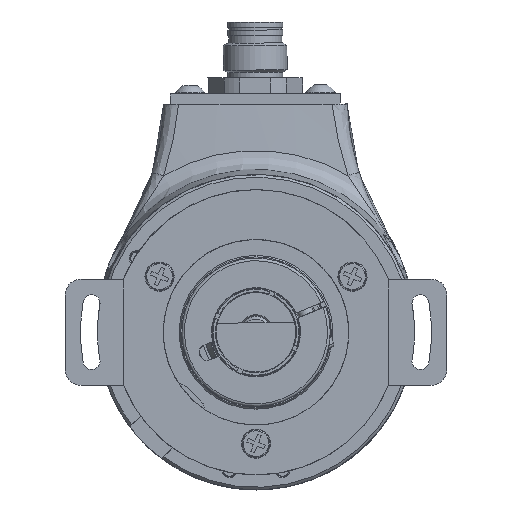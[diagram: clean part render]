
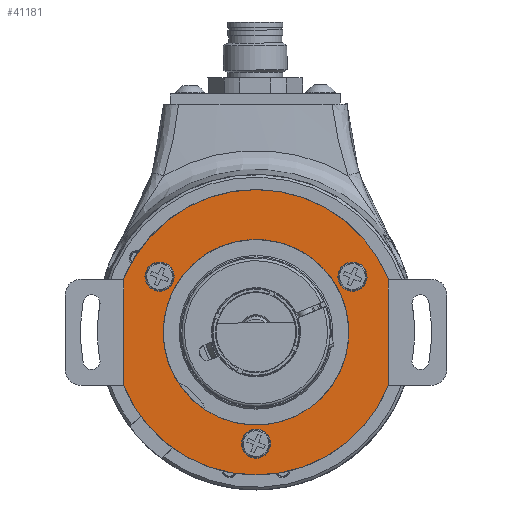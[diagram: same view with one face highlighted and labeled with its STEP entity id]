
A CAD part, left-side view. The second image highlights one B-rep face of the part: STEP entity #41181.
In plain terms, the highlighted planar face has unit normal (-1, 0, 0).
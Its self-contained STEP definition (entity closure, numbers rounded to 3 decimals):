
#952=LINE('',#57636,#3853);
#956=LINE('',#57644,#3857);
#3853=VECTOR('',#47270,1000.);
#3857=VECTOR('',#47276,1000.);
#6654=PLANE('',#43299);
#9602=ORIENTED_EDGE('',*,*,#16821,.F.);
#9603=ORIENTED_EDGE('',*,*,#16820,.F.);
#9604=ORIENTED_EDGE('',*,*,#16819,.F.);
#9605=ORIENTED_EDGE('',*,*,#16816,.F.);
#9606=ORIENTED_EDGE('',*,*,#16815,.F.);
#9607=ORIENTED_EDGE('',*,*,#16832,.F.);
#9608=ORIENTED_EDGE('',*,*,#16811,.T.);
#9609=ORIENTED_EDGE('',*,*,#16837,.T.);
#16811=EDGE_CURVE('',#20643,#20642,#952,.T.);
#16815=EDGE_CURVE('',#20645,#20644,#956,.T.);
#16816=EDGE_CURVE('',#20644,#20642,#23139,.T.);
#16819=EDGE_CURVE('',#20646,#20646,#23142,.T.);
#16820=EDGE_CURVE('',#20647,#20647,#23143,.T.);
#16821=EDGE_CURVE('',#20648,#20648,#23144,.T.);
#16832=EDGE_CURVE('',#20643,#20645,#23152,.T.);
#16837=EDGE_CURVE('',#20656,#20656,#23154,.T.);
#20642=VERTEX_POINT('',#57635);
#20643=VERTEX_POINT('',#57637);
#20644=VERTEX_POINT('',#57641);
#20645=VERTEX_POINT('',#57643);
#20646=VERTEX_POINT('',#57651);
#20647=VERTEX_POINT('',#57654);
#20648=VERTEX_POINT('',#57657);
#20656=VERTEX_POINT('',#57687);
#23139=CIRCLE('',#43276,26.9);
#23142=CIRCLE('',#43280,2.75);
#23143=CIRCLE('',#43282,2.75);
#23144=CIRCLE('',#43284,2.75);
#23152=CIRCLE('',#43296,26.9);
#23154=CIRCLE('',#43300,17.5);
#24361=EDGE_LOOP('',(#9602));
#24362=EDGE_LOOP('',(#9603));
#24363=EDGE_LOOP('',(#9604));
#24364=EDGE_LOOP('',(#9605,#9606,#9607,#9608));
#24365=EDGE_LOOP('',(#9609));
#26593=FACE_BOUND('',#24361,.T.);
#26594=FACE_BOUND('',#24362,.T.);
#26595=FACE_BOUND('',#24363,.T.);
#26596=FACE_BOUND('',#24364,.T.);
#26597=FACE_BOUND('',#24365,.T.);
#41181=ADVANCED_FACE('',(#26593,#26594,#26595,#26596,#26597),#6654,.F.);
#43276=AXIS2_PLACEMENT_3D('',#57646,#47279,#47280);
#43280=AXIS2_PLACEMENT_3D('',#57650,#47287,#47288);
#43282=AXIS2_PLACEMENT_3D('',#57653,#47291,#47292);
#43284=AXIS2_PLACEMENT_3D('',#57656,#47295,#47296);
#43296=AXIS2_PLACEMENT_3D('',#57677,#47322,#47323);
#43299=AXIS2_PLACEMENT_3D('',#57685,#47331,#47332);
#43300=AXIS2_PLACEMENT_3D('',#57686,#47333,#47334);
#47270=DIRECTION('',(0.,0.,1.));
#47276=DIRECTION('',(0.,0.,1.));
#47279=DIRECTION('',(1.,0.,0.));
#47280=DIRECTION('',(0.,1.,0.));
#47287=DIRECTION('',(-1.,0.,0.));
#47288=DIRECTION('',(0.,-0.369,0.93));
#47291=DIRECTION('',(-1.,0.,0.));
#47292=DIRECTION('',(0.,-0.369,0.93));
#47295=DIRECTION('',(-1.,0.,0.));
#47296=DIRECTION('',(0.,-0.369,0.93));
#47322=DIRECTION('',(1.,0.,0.));
#47323=DIRECTION('',(0.,1.,0.));
#47331=DIRECTION('',(1.,0.,0.));
#47332=DIRECTION('',(0.,1.,0.));
#47333=DIRECTION('',(1.,0.,0.));
#47334=DIRECTION('',(0.,1.,0.));
#57635=CARTESIAN_POINT('',(-6.5,-24.95,10.055));
#57636=CARTESIAN_POINT('',(-6.5,-24.95,-26.9));
#57637=CARTESIAN_POINT('',(-6.5,-24.95,-10.055));
#57641=CARTESIAN_POINT('',(-6.5,24.95,10.055));
#57643=CARTESIAN_POINT('',(-6.5,24.95,-10.055));
#57644=CARTESIAN_POINT('',(-6.5,24.95,-26.9));
#57646=CARTESIAN_POINT('',(-6.5,0.,0.));
#57650=CARTESIAN_POINT('',(-6.5,18.187,10.5));
#57651=CARTESIAN_POINT('',(-6.5,17.172,13.056));
#57653=CARTESIAN_POINT('',(-6.5,0.,-21.));
#57654=CARTESIAN_POINT('',(-6.5,-1.014,-18.444));
#57656=CARTESIAN_POINT('',(-6.5,-18.187,10.5));
#57657=CARTESIAN_POINT('',(-6.5,-19.201,13.056));
#57677=CARTESIAN_POINT('',(-6.5,0.,0.));
#57685=CARTESIAN_POINT('',(-6.5,-24.95,-26.9));
#57686=CARTESIAN_POINT('',(-6.5,0.,0.));
#57687=CARTESIAN_POINT('',(-6.5,17.5,0.));
